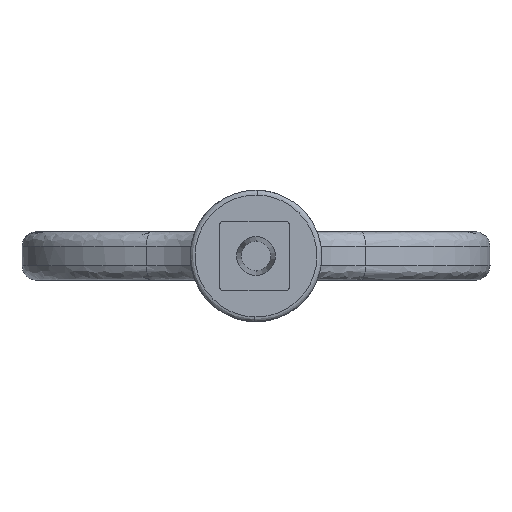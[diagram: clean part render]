
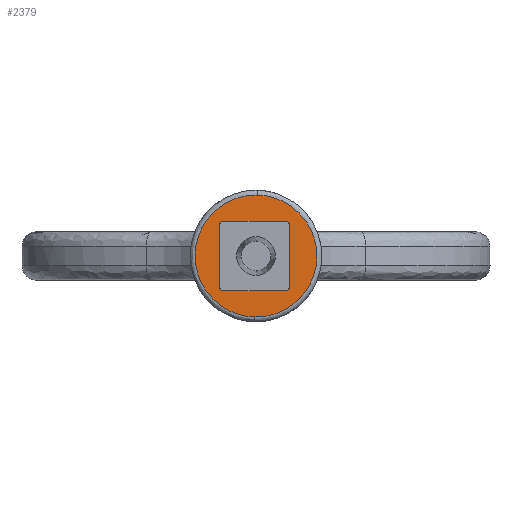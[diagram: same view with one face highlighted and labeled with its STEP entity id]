
A CAD part, front view. The second image highlights one B-rep face of the part: STEP entity #2379.
In plain terms, the highlighted planar face has unit normal (0, -1, 0).
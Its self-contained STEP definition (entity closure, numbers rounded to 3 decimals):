
#123 = CARTESIAN_POINT ( 'NONE',  ( 3.4, -62., 2.5 ) ) ;
#163 = CARTESIAN_POINT ( 'NONE',  ( 0., -62., -3.75 ) ) ;
#193 = EDGE_CURVE ( 'NONE', #2655, #2729, #353, .T. ) ;
#198 = ORIENTED_EDGE ( 'NONE', *, *, #1066, .F. ) ;
#338 = CARTESIAN_POINT ( 'NONE',  ( 0., -62., 2.5 ) ) ;
#342 = VERTEX_POINT ( 'NONE', #3235 ) ;
#353 = LINE ( 'NONE', #1855, #920 ) ;
#439 = CARTESIAN_POINT ( 'NONE',  ( 0., -62., 8.75 ) ) ;
#456 = AXIS2_PLACEMENT_3D ( 'NONE', #338, #4168, #2629 ) ;
#498 = EDGE_CURVE ( 'NONE', #3873, #3302, #1056, .T. ) ;
#546 = AXIS2_PLACEMENT_3D ( 'NONE', #4124, #1087, #3778 ) ;
#561 = EDGE_CURVE ( 'NONE', #3302, #342, #3967, .T. ) ;
#585 = EDGE_CURVE ( 'NONE', #2259, #1235, #4222, .T. ) ;
#606 = EDGE_CURVE ( 'NONE', #2381, #2404, #3548, .T. ) ;
#731 = CARTESIAN_POINT ( 'NONE',  ( 0., -62., -3.75 ) ) ;
#859 = CARTESIAN_POINT ( 'NONE',  ( -3.7, -62., 2.5 ) ) ;
#891 = CARTESIAN_POINT ( 'NONE',  ( 0., -62., -3.75 ) ) ;
#920 = VECTOR ( 'NONE', #3361, 1000. ) ;
#933 = CARTESIAN_POINT ( 'NONE',  ( -12.37, -62., -3.49 ) ) ;
#1056 =( BOUNDED_CURVE ( )  B_SPLINE_CURVE ( 3, ( #731, #3797, #4889, #1497 ),
 .UNSPECIFIED., .F., .F. ) 
 B_SPLINE_CURVE_WITH_KNOTS ( ( 4, 4 ),
 ( 0., 0.007 ),
 .UNSPECIFIED. ) 
 CURVE ( )  GEOMETRIC_REPRESENTATION_ITEM ( )  RATIONAL_B_SPLINE_CURVE ( ( 1., 1., 1., 1. ) ) 
 REPRESENTATION_ITEM ( '' )  );
#1066 = EDGE_CURVE ( 'NONE', #2836, #3873, #3266, .T. ) ;
#1077 = DIRECTION ( 'NONE',  ( -1., 0., 0. ) ) ;
#1087 = DIRECTION ( 'NONE',  ( 0., 1., 0. ) ) ;
#1108 = ORIENTED_EDGE ( 'NONE', *, *, #193, .T. ) ;
#1137 = ORIENTED_EDGE ( 'NONE', *, *, #2444, .F. ) ;
#1181 = CARTESIAN_POINT ( 'NONE',  ( 0.044, -62., 8.75 ) ) ;
#1217 = CARTESIAN_POINT ( 'NONE',  ( -3.4, -62., 6.05 ) ) ;
#1235 = VERTEX_POINT ( 'NONE', #1711 ) ;
#1285 = DIRECTION ( 'NONE',  ( 0., 0., 1. ) ) ;
#1319 = VECTOR ( 'NONE', #1285, 1000. ) ;
#1328 = ORIENTED_EDGE ( 'NONE', *, *, #4541, .T. ) ;
#1337 = CARTESIAN_POINT ( 'NONE',  ( 3.1, -62., 6.05 ) ) ;
#1413 = LINE ( 'NONE', #4034, #3067 ) ;
#1496 = ORIENTED_EDGE ( 'NONE', *, *, #561, .F. ) ;
#1497 = CARTESIAN_POINT ( 'NONE',  ( -0.132, -62., -3.749 ) ) ;
#1577 = DIRECTION ( 'NONE',  ( 0., 1., 0. ) ) ;
#1642 = CIRCLE ( 'NONE', #546, 0.3 ) ;
#1711 = CARTESIAN_POINT ( 'NONE',  ( 3.4, -62., -0.75 ) ) ;
#1747 = CARTESIAN_POINT ( 'NONE',  ( 0.132, -62., 8.749 ) ) ;
#1783 = AXIS2_PLACEMENT_3D ( 'NONE', #2607, #4767, #3259 ) ;
#1855 = CARTESIAN_POINT ( 'NONE',  ( 0., -62., 6.05 ) ) ;
#1942 = ORIENTED_EDGE ( 'NONE', *, *, #606, .T. ) ;
#2027 = CARTESIAN_POINT ( 'NONE',  ( -3.4, -62., -0.75 ) ) ;
#2041 = CARTESIAN_POINT ( 'NONE',  ( 0.132, -62., 8.749 ) ) ;
#2259 = VERTEX_POINT ( 'NONE', #3240 ) ;
#2275 = FACE_OUTER_BOUND ( 'NONE', #2777, .T. ) ;
#2379 = ADVANCED_FACE ( 'NONE', ( #4194, #2275 ), #2963, .T. ) ;
#2381 = VERTEX_POINT ( 'NONE', #3742 ) ;
#2404 = VERTEX_POINT ( 'NONE', #3368 ) ;
#2444 = EDGE_CURVE ( 'NONE', #342, #2836, #4662, .T. ) ;
#2520 = EDGE_LOOP ( 'NONE', ( #1108, #1328, #4280, #4620, #2964, #4354, #1942, #4888 ) ) ;
#2607 = CARTESIAN_POINT ( 'NONE',  ( -3.4, -62., 5.75 ) ) ;
#2629 = DIRECTION ( 'NONE',  ( 0., 0., -1. ) ) ;
#2655 = VERTEX_POINT ( 'NONE', #1217 ) ;
#2676 = VERTEX_POINT ( 'NONE', #4181 ) ;
#2703 = CARTESIAN_POINT ( 'NONE',  ( 0.088, -62., 8.75 ) ) ;
#2729 = VERTEX_POINT ( 'NONE', #1337 ) ;
#2777 = EDGE_LOOP ( 'NONE', ( #1137, #1496, #4146, #198 ) ) ;
#2801 = CARTESIAN_POINT ( 'NONE',  ( -12.241, -62., 8.75 ) ) ;
#2824 = CARTESIAN_POINT ( 'NONE',  ( 0.132, -62., 8.749 ) ) ;
#2836 = VERTEX_POINT ( 'NONE', #1747 ) ;
#2894 = EDGE_CURVE ( 'NONE', #2404, #2655, #3925, .T. ) ;
#2963 = PLANE ( 'NONE',  #456 ) ;
#2964 = ORIENTED_EDGE ( 'NONE', *, *, #4634, .T. ) ;
#2987 = CARTESIAN_POINT ( 'NONE',  ( -0.132, -62., -3.749 ) ) ;
#3067 = VECTOR ( 'NONE', #1077, 1000. ) ;
#3235 = CARTESIAN_POINT ( 'NONE',  ( 0., -62., 8.75 ) ) ;
#3240 = CARTESIAN_POINT ( 'NONE',  ( 3.4, -62., 5.75 ) ) ;
#3259 = DIRECTION ( 'NONE',  ( 0., 0., -1. ) ) ;
#3266 =( BOUNDED_CURVE ( )  B_SPLINE_CURVE ( 3, ( #2041, #3538, #4587, #163 ),
 .UNSPECIFIED., .F., .T. ) 
 B_SPLINE_CURVE_WITH_KNOTS ( ( 4, 4 ),
 ( 0.007, 1. ),
 .UNSPECIFIED. ) 
 CURVE ( )  GEOMETRIC_REPRESENTATION_ITEM ( )  RATIONAL_B_SPLINE_CURVE ( ( 1., 0.34, 0.34, 1. ) ) 
 REPRESENTATION_ITEM ( '' )  );
#3293 = AXIS2_PLACEMENT_3D ( 'NONE', #2027, #1577, #3477 ) ;
#3302 = VERTEX_POINT ( 'NONE', #2987 ) ;
#3361 = DIRECTION ( 'NONE',  ( 1., 0., 0. ) ) ;
#3368 = CARTESIAN_POINT ( 'NONE',  ( -3.7, -62., 5.75 ) ) ;
#3424 = CARTESIAN_POINT ( 'NONE',  ( -3.4, -62., -1.05 ) ) ;
#3472 = CARTESIAN_POINT ( 'NONE',  ( -0.132, -62., -3.749 ) ) ;
#3477 = DIRECTION ( 'NONE',  ( 0., 0., -1. ) ) ;
#3538 = CARTESIAN_POINT ( 'NONE',  ( 12.37, -62., 8.49 ) ) ;
#3548 = LINE ( 'NONE', #859, #1319 ) ;
#3742 = CARTESIAN_POINT ( 'NONE',  ( -3.7, -62., -0.75 ) ) ;
#3775 = AXIS2_PLACEMENT_3D ( 'NONE', #3879, #3826, #4308 ) ;
#3778 = DIRECTION ( 'NONE',  ( 0., 0., -1. ) ) ;
#3797 = CARTESIAN_POINT ( 'NONE',  ( -0.044, -62., -3.75 ) ) ;
#3826 = DIRECTION ( 'NONE',  ( 0., 1., 0. ) ) ;
#3873 = VERTEX_POINT ( 'NONE', #891 ) ;
#3875 = DIRECTION ( 'NONE',  ( 0., 0., -1. ) ) ;
#3879 = CARTESIAN_POINT ( 'NONE',  ( 3.1, -62., 5.75 ) ) ;
#3925 = CIRCLE ( 'NONE', #1783, 0.3 ) ;
#3967 =( BOUNDED_CURVE ( )  B_SPLINE_CURVE ( 3, ( #3472, #933, #2801, #439 ),
 .UNSPECIFIED., .F., .T. ) 
 B_SPLINE_CURVE_WITH_KNOTS ( ( 4, 4 ),
 ( 0.007, 1. ),
 .UNSPECIFIED. ) 
 CURVE ( )  GEOMETRIC_REPRESENTATION_ITEM ( )  RATIONAL_B_SPLINE_CURVE ( ( 1., 0.34, 0.34, 1. ) ) 
 REPRESENTATION_ITEM ( '' )  );
#4034 = CARTESIAN_POINT ( 'NONE',  ( 0., -62., -1.05 ) ) ;
#4084 = CIRCLE ( 'NONE', #3775, 0.3 ) ;
#4124 = CARTESIAN_POINT ( 'NONE',  ( 3.1, -62., -0.75 ) ) ;
#4146 = ORIENTED_EDGE ( 'NONE', *, *, #498, .F. ) ;
#4168 = DIRECTION ( 'NONE',  ( 0., -1., 0. ) ) ;
#4181 = CARTESIAN_POINT ( 'NONE',  ( 3.1, -62., -1.05 ) ) ;
#4194 = FACE_BOUND ( 'NONE', #2520, .T. ) ;
#4222 = LINE ( 'NONE', #123, #4553 ) ;
#4257 = CIRCLE ( 'NONE', #3293, 0.3 ) ;
#4280 = ORIENTED_EDGE ( 'NONE', *, *, #585, .T. ) ;
#4308 = DIRECTION ( 'NONE',  ( 0., 0., -1. ) ) ;
#4354 = ORIENTED_EDGE ( 'NONE', *, *, #4571, .T. ) ;
#4501 = VERTEX_POINT ( 'NONE', #3424 ) ;
#4505 = EDGE_CURVE ( 'NONE', #1235, #2676, #1642, .T. ) ;
#4541 = EDGE_CURVE ( 'NONE', #2729, #2259, #4084, .T. ) ;
#4553 = VECTOR ( 'NONE', #3875, 1000. ) ;
#4566 = CARTESIAN_POINT ( 'NONE',  ( 0., -62., 8.75 ) ) ;
#4571 = EDGE_CURVE ( 'NONE', #4501, #2381, #4257, .T. ) ;
#4587 = CARTESIAN_POINT ( 'NONE',  ( 12.241, -62., -3.75 ) ) ;
#4620 = ORIENTED_EDGE ( 'NONE', *, *, #4505, .T. ) ;
#4634 = EDGE_CURVE ( 'NONE', #2676, #4501, #1413, .T. ) ;
#4662 =( BOUNDED_CURVE ( )  B_SPLINE_CURVE ( 3, ( #4566, #1181, #2703, #2824 ),
 .UNSPECIFIED., .F., .T. ) 
 B_SPLINE_CURVE_WITH_KNOTS ( ( 4, 4 ),
 ( 0., 0.007 ),
 .UNSPECIFIED. ) 
 CURVE ( )  GEOMETRIC_REPRESENTATION_ITEM ( )  RATIONAL_B_SPLINE_CURVE ( ( 1., 1., 1., 1. ) ) 
 REPRESENTATION_ITEM ( '' )  );
#4767 = DIRECTION ( 'NONE',  ( 0., 1., 0. ) ) ;
#4888 = ORIENTED_EDGE ( 'NONE', *, *, #2894, .T. ) ;
#4889 = CARTESIAN_POINT ( 'NONE',  ( -0.088, -62., -3.75 ) ) ;
